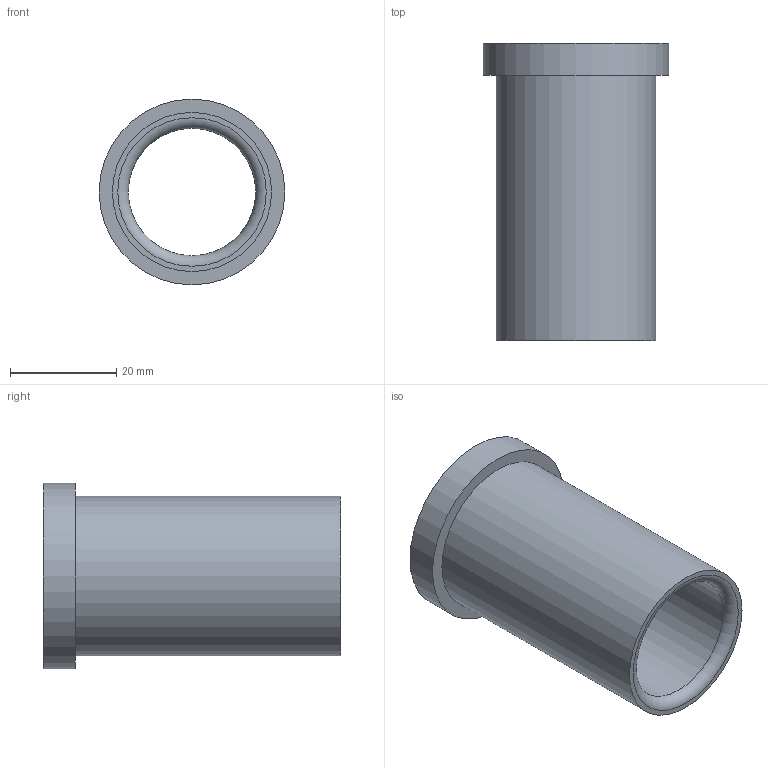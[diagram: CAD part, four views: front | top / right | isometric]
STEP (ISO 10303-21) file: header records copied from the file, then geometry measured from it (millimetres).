
FILE_DESCRIPTION(/* description */ ('STEP AP214'),/* implementation_level */ '2;1');
FILE_NAME(/* name */ '03_12_17937',/* time_stamp */ '2023-06-15T11:35:36+02:00',/* author */ ('License CC BY-ND 4.0'),/* organization */ ('CADENAS'),/* preprocessor_version */ 'ST-DEVELOPER v19.3',/* originating_system */ 'PARTsolutions',/* authorisation */ ' ');
FILE_SCHEMA (('AUTOMOTIVE_DESIGN {1 0 10303 214 3 1 1}'));
Length unit declared in the file: millimetre
Products named in the file (1): VA_Bushing_17937
Bounding box: 35 x 56 x 35 mm (x, y, z)
Volume: 15389.4 mm3; surface area: 10507.5 mm2
Topology: 1 solids, 1 shells, 10 faces, 16 edges, 10 vertices
Faces by surface type: cylinder 4, plane 4, torus 2
Full cylindrical faces by diameter (mm): 24 x1, 24.6 x1, 30 x1, 35 x1
Entity records: 302 total; most frequent: DIRECTION 42, CARTESIAN_POINT 31, AXIS2_PLACEMENT_3D 21, ORIENTED_EDGE 20, EDGE_LOOP 20, FACE_BOUND 20, EDGE_CURVE 10, VERTEX_POINT 10
